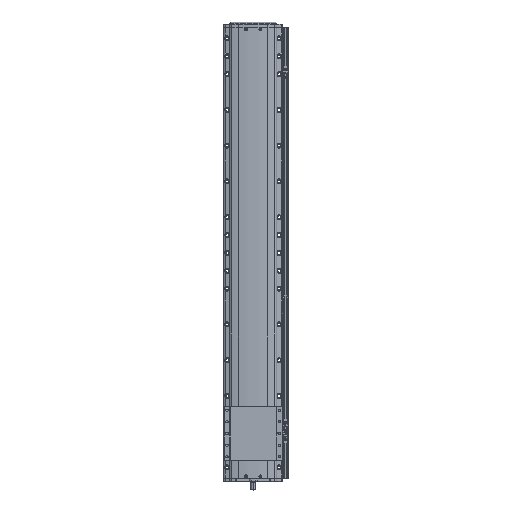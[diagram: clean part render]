
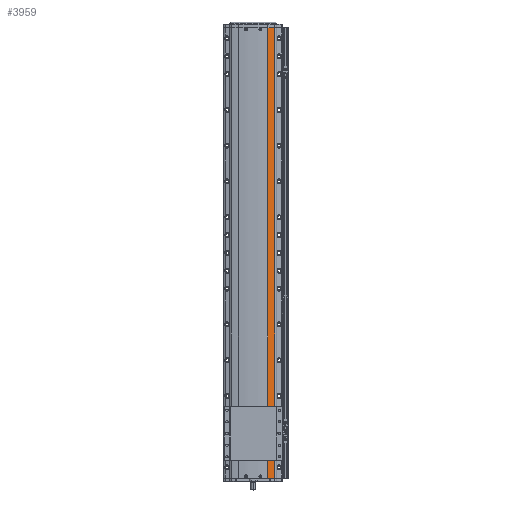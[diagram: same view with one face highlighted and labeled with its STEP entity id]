
A CAD part, top view. The second image highlights one B-rep face of the part: STEP entity #3959.
In plain terms, the highlighted cylindrical face has radius 328.5 mm (diameter 657 mm), a partial arc.
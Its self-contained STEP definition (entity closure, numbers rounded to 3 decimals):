
#3959=ADVANCED_FACE('',(#9755),#9756,.T.);
#9755=FACE_OUTER_BOUND('',#18817,.T.);
#9756=CYLINDRICAL_SURFACE('',#18818,328.5);
#18817=EDGE_LOOP('',(#31627,#31628,#31629,#31630));
#18818=AXIS2_PLACEMENT_3D('',#31631,#31632,#31633);
#31627=ORIENTED_EDGE('',*,*,#52937,.T.);
#31628=ORIENTED_EDGE('',*,*,#51789,.F.);
#31629=ORIENTED_EDGE('',*,*,#52459,.T.);
#31630=ORIENTED_EDGE('',*,*,#49763,.T.);
#31631=CARTESIAN_POINT('',(-600.,1082.222,-283.5));
#31632=DIRECTION('',(0.0,-1.0,0.));
#31633=DIRECTION('',(1.0,0.0,0.0));
#49763=EDGE_CURVE('',#59095,#59093,#59096,.T.);
#51789=EDGE_CURVE('',#62715,#62710,#62717,.T.);
#52459=EDGE_CURVE('',#62715,#59095,#63817,.T.);
#52937=EDGE_CURVE('',#59093,#62710,#64587,.T.);
#59093=VERTEX_POINT('',#72932);
#59095=VERTEX_POINT('',#72935);
#59096=LINE('',#72936,#72937);
#62710=VERTEX_POINT('',#78563);
#62715=VERTEX_POINT('',#78569);
#62717=LINE('',#78571,#78572);
#63817=CIRCLE('',#80106,328.5);
#64587=CIRCLE('',#81215,328.5);
#72932=CARTESIAN_POINT('',(-559.,-177.778,42.431));
#72935=CARTESIAN_POINT('',(-559.,1082.222,42.431));
#72936=CARTESIAN_POINT('',(-559.,1082.222,42.431));
#72937=VECTOR('',#92755,1000.0);
#78563=CARTESIAN_POINT('',(-538.884,-177.778,39.265));
#78569=CARTESIAN_POINT('',(-538.884,1082.222,39.265));
#78571=CARTESIAN_POINT('',(-538.884,1082.222,39.265));
#78572=VECTOR('',#95356,1000.0);
#80106=AXIS2_PLACEMENT_3D('',#96232,#96233,#96234);
#81215=AXIS2_PLACEMENT_3D('',#96915,#96916,#96917);
#92755=DIRECTION('',(0.0,-1.0,0.));
#95356=DIRECTION('',(0.0,-1.0,0.));
#96232=CARTESIAN_POINT('',(-600.,1082.222,-283.5));
#96233=DIRECTION('',(0.0,-1.0,0.));
#96234=DIRECTION('',(1.0,0.0,0.0));
#96915=CARTESIAN_POINT('',(-600.,-177.778,-283.5));
#96916=DIRECTION('',(0.0,1.0,0.));
#96917=DIRECTION('',(1.0,0.0,0.0));
